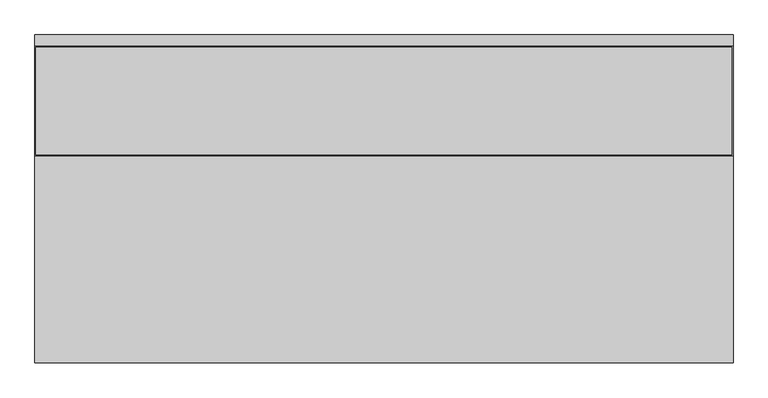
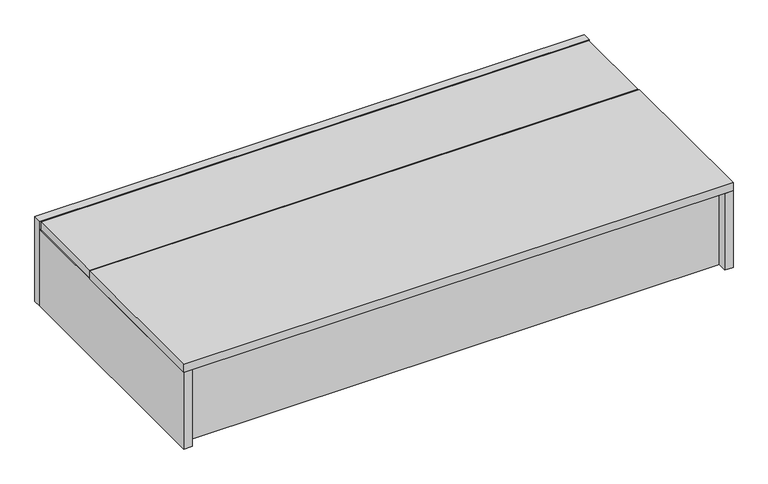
"""IFC4 building model written with IfcOpenShell, lengths in millimetres: proxy geometry, FOUNDATION^PO2_WIRE WALL-PARTS SOLID."""

from ifc_helpers import new_model, si_unit, frame, origin, place, context, project, spatial, polyline, outline, extrude, source, transform, mapped, element, save


def generic_models_b5e62c71(model_context):
    return source(origin(), model_context, "Body", "SweptSolid", [
        extrude(outline(polyline([(1244.6, -196.85), (1244.6, -565.15), (0.0, -565.15), (0.0, -196.85), (1244.6, -196.85)])), frame((0.0, 0.0, -19.05), z_axis=(0.0, 0.0, 1.0), x_axis=(1.0, 0.0, 0.0)), (0.0, 0.0, 1.0), 19.05),
        extrude(outline(polyline([(1225.55, 0.0), (1244.6, 0.0), (1244.6, -565.15), (1225.55, -565.15), (1225.55, 0.0)])), frame((0.0, 0.0, -203.2), z_axis=(0.0, 0.0, 1.0), x_axis=(1.0, 0.0, 0.0)), (0.0, 0.0, 1.0), 184.15),
        extrude(outline(polyline([(1225.55, -543.4076), (19.05, -543.4076), (19.05, -511.6576), (1225.55, -511.6576), (1225.55, -543.4076)])), frame((0.0, 0.0, -203.2), z_axis=(0.0, 0.0, 1.0), x_axis=(1.0, 0.0, 0.0)), (0.0, 0.0, 1.0), 184.15),
        extrude(outline(polyline([(0.0, 0.0), (19.05, 0.0), (19.05, -565.15), (0.0, -565.15), (0.0, 0.0)])), frame((0.0, 0.0, -203.2), z_axis=(0.0, 0.0, 1.0), x_axis=(1.0, 0.0, 0.0)), (0.0, 0.0, 1.0), 184.15),
        extrude(outline(polyline([(1242.21875, -194.46875), (1.190625, -194.46875), (1.190625, -3.175), (1242.21875, -3.175), (1242.21875, -194.46875)])), frame((0.0, 0.0, -19.05), z_axis=(0.0, 0.0, 1.0), x_axis=(1.0, 0.0, 0.0)), (0.0, 0.0, 1.0), 19.05),
        extrude(outline(polyline([(1244.6, 0.0), (0.0, 0.0), (0.0, 19.05), (1244.6, 19.05), (1244.6, 0.0)])), frame((0.0, 0.0, -203.2), z_axis=(0.0, 0.0, 1.0), x_axis=(1.0, 0.0, 0.0)), (0.0, 0.0, 1.0), 203.2),
    ])


if __name__ == "__main__":
    model = new_model("IFC4")
    model_context = context("Model", 3, world=origin())
    ifc_project = project(units=[si_unit("LENGTHUNIT", "METRE", prefix="MILLI")], contexts=[model_context])
    site = spatial("IfcSite", under=ifc_project)
    building = spatial("IfcBuilding", under=site)
    placement = place(None, origin())
    generic_models_shape = generic_models_b5e62c71(model_context)
    element("IfcBuildingElementProxy", 1, Name="FOUNDATION^PO2_WIRE WALL-PARTS SOLID", ObjectType="FOUNDATION^PO2_WIRE WALL-PARTS SOLID", at=placement, inside=building, context=model_context, shape_type="MappedRepresentation", body=[
        mapped(generic_models_shape, transform((0.0, 0.0, 0.0), x_axis=(1.0, 0.0, 0.0), y_axis=(0.0, 1.0, 0.0), z_axis=(0.0, 0.0, 1.0))),
    ])
    save(model, "model.ifc")
